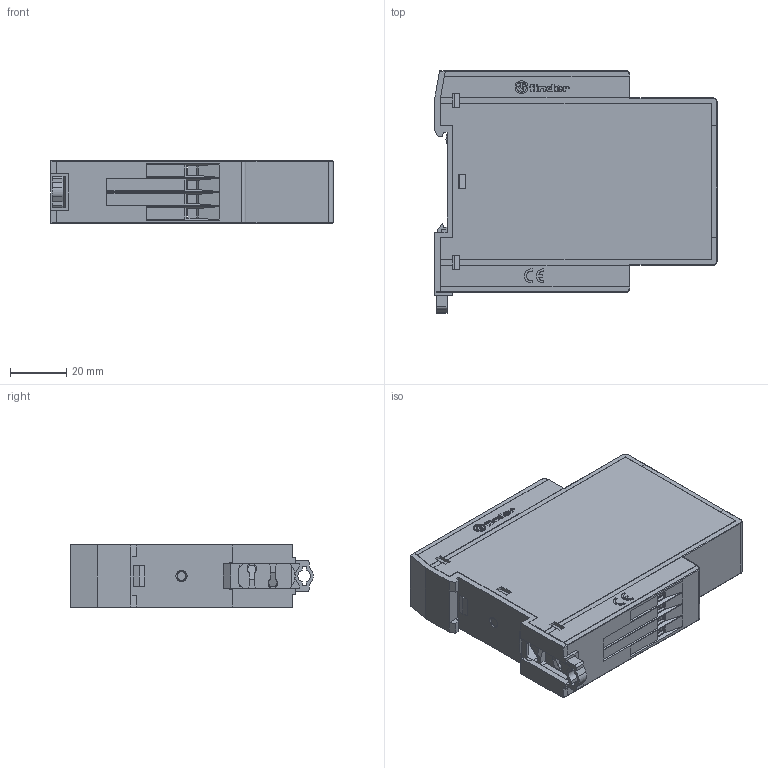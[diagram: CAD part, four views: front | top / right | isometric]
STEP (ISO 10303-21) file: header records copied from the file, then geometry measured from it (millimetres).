
FILE_DESCRIPTION(/* description */ ('Unknown'),/* implementation_level */ '2;1');
FILE_NAME(/* name */ '7S32 unico',/* time_stamp */ '2018-02-12T15:29:22+01:00',/* author */ ('Unknown'),/* organization */ ('Unknown'),/* preprocessor_version */ 'ST-DEVELOPER v16.7',/* originating_system */ 'DEX',/* authorisation */ $);
FILE_SCHEMA (('AUTOMOTIVE_DESIGN {1 0 10303 214 3 1 1}'));
Products named in the file (1): 7S32 unico
Bounding box: 100.3 x 86.25 x 22.5 mm (x, y, z)
Surface area: 51283.8 mm2 (no closed solid volume)
Topology: 0 solids, 125 shells, 1752 faces, 6370 edges, 4724 vertices
Faces by surface type: plane 1529, cylinder 152, cone 33, torus 24, bspline 14
Full cylindrical faces by diameter (mm): 3 x2, 4.566 x2, 4.6 x8, 4.7 x8
Entity records: 67980 total; most frequent: CARTESIAN_POINT 13720, DIRECTION 10346, ORIENTED_EDGE 10102, EDGE_CURVE 6330, LINE 5516, VECTOR 5516, VERTEX_POINT 4705, AXIS2_PLACEMENT_3D 2415
